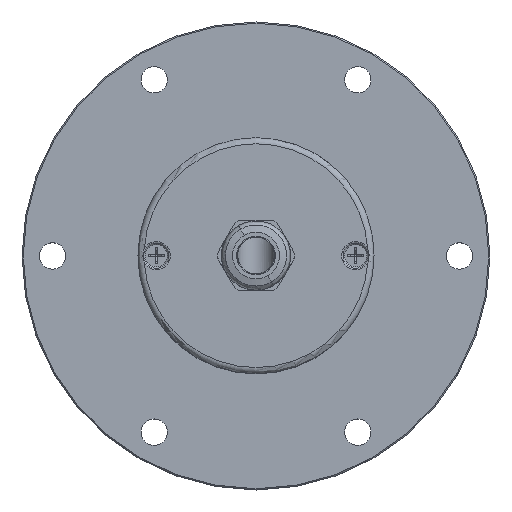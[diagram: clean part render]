
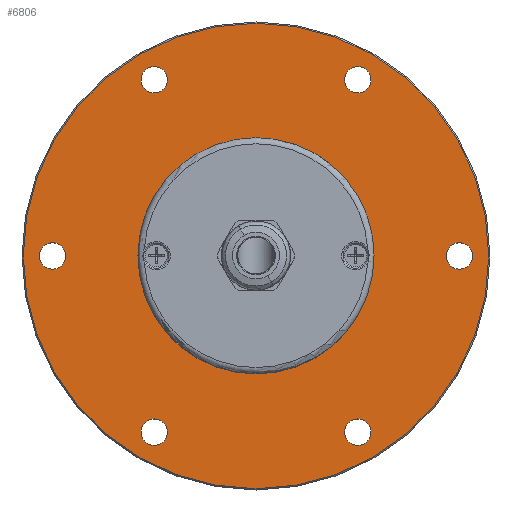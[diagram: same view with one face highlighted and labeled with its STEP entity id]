
A CAD part, top view. The second image highlights one B-rep face of the part: STEP entity #6806.
In plain terms, the highlighted planar face has unit normal (0, 0, 1).
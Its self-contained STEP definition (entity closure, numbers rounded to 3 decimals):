
#5588=CARTESIAN_POINT('',(29.,0.,11.0));
#5589=VERTEX_POINT('',#5588);
#5590=CARTESIAN_POINT('',(0.0,0.0,11.0));
#5591=DIRECTION('',(0.0,0.0,1.0));
#5592=DIRECTION('',(-1.0,0.0,0.0));
#5593=AXIS2_PLACEMENT_3D('',#5590,#5591,#5592);
#5594=CIRCLE('',#5593,29.);
#5595=EDGE_CURVE('',#5589,#5589,#5594,.T.);
#6255=CARTESIAN_POINT('',(-21.75,43.301,11.0));
#6256=VERTEX_POINT('',#6255);
#6257=CARTESIAN_POINT('',(-25.,43.301,11.));
#6258=DIRECTION('',(0.0,0.0,-1.0));
#6259=DIRECTION('',(1.0,0.0,0.0));
#6260=AXIS2_PLACEMENT_3D('',#6257,#6258,#6259);
#6261=CIRCLE('',#6260,3.25);
#6262=EDGE_CURVE('',#6256,#6256,#6261,.T.);
#6304=CARTESIAN_POINT('',(-48.375,2.815,11.0));
#6305=VERTEX_POINT('',#6304);
#6306=CARTESIAN_POINT('',(-50.0,0.,11.));
#6307=DIRECTION('',(0.0,0.0,-1.0));
#6308=DIRECTION('',(0.5,0.866,0.0));
#6309=AXIS2_PLACEMENT_3D('',#6306,#6307,#6308);
#6310=CIRCLE('',#6309,3.25);
#6311=EDGE_CURVE('',#6305,#6305,#6310,.T.);
#6353=CARTESIAN_POINT('',(-26.625,-40.487,11.0));
#6354=VERTEX_POINT('',#6353);
#6355=CARTESIAN_POINT('',(-25.,-43.301,11.));
#6356=DIRECTION('',(0.0,0.0,-1.0));
#6357=DIRECTION('',(-0.5,0.866,0.0));
#6358=AXIS2_PLACEMENT_3D('',#6355,#6356,#6357);
#6359=CIRCLE('',#6358,3.25);
#6360=EDGE_CURVE('',#6354,#6354,#6359,.T.);
#6402=CARTESIAN_POINT('',(21.75,-43.301,11.0));
#6403=VERTEX_POINT('',#6402);
#6404=CARTESIAN_POINT('',(25.,-43.301,11.));
#6405=DIRECTION('',(0.0,0.0,-1.0));
#6406=DIRECTION('',(-1.0,0.0,0.0));
#6407=AXIS2_PLACEMENT_3D('',#6404,#6405,#6406);
#6408=CIRCLE('',#6407,3.25);
#6409=EDGE_CURVE('',#6403,#6403,#6408,.T.);
#6451=CARTESIAN_POINT('',(48.375,-2.815,11.0));
#6452=VERTEX_POINT('',#6451);
#6453=CARTESIAN_POINT('',(50.0,0.,11.));
#6454=DIRECTION('',(0.0,0.0,-1.0));
#6455=DIRECTION('',(-0.5,-0.866,0.0));
#6456=AXIS2_PLACEMENT_3D('',#6453,#6454,#6455);
#6457=CIRCLE('',#6456,3.25);
#6458=EDGE_CURVE('',#6452,#6452,#6457,.T.);
#6500=CARTESIAN_POINT('',(26.625,40.487,11.0));
#6501=VERTEX_POINT('',#6500);
#6502=CARTESIAN_POINT('',(25.,43.301,11.));
#6503=DIRECTION('',(0.0,0.0,-1.));
#6504=DIRECTION('',(0.5,-0.866,0.0));
#6505=AXIS2_PLACEMENT_3D('',#6502,#6503,#6504);
#6506=CIRCLE('',#6505,3.25);
#6507=EDGE_CURVE('',#6501,#6501,#6506,.T.);
#6769=CARTESIAN_POINT('',(0.0,0.0,11.0));
#6770=DIRECTION('',(0.0,0.0,-1.0));
#6771=DIRECTION('',(-1.0,0.0,0.0));
#6772=AXIS2_PLACEMENT_3D('',#6769,#6770,#6771);
#6773=PLANE('',#6772);
#6774=CARTESIAN_POINT('',(57.2,0.,11.0));
#6775=VERTEX_POINT('',#6774);
#6776=CARTESIAN_POINT('',(0.0,0.0,11.0));
#6777=DIRECTION('',(0.0,0.0,-1.0));
#6778=DIRECTION('',(-1.0,0.0,0.0));
#6779=AXIS2_PLACEMENT_3D('',#6776,#6777,#6778);
#6780=CIRCLE('',#6779,57.2);
#6781=EDGE_CURVE('',#6775,#6775,#6780,.T.);
#6782=ORIENTED_EDGE('',*,*,#6781,.F.);
#6783=EDGE_LOOP('',(#6782));
#6784=FACE_OUTER_BOUND('',#6783,.T.);
#6785=ORIENTED_EDGE('',*,*,#5595,.F.);
#6786=EDGE_LOOP('',(#6785));
#6787=FACE_BOUND('',#6786,.T.);
#6788=ORIENTED_EDGE('',*,*,#6262,.T.);
#6789=EDGE_LOOP('',(#6788));
#6790=FACE_BOUND('',#6789,.T.);
#6791=ORIENTED_EDGE('',*,*,#6311,.T.);
#6792=EDGE_LOOP('',(#6791));
#6793=FACE_BOUND('',#6792,.T.);
#6794=ORIENTED_EDGE('',*,*,#6360,.T.);
#6795=EDGE_LOOP('',(#6794));
#6796=FACE_BOUND('',#6795,.T.);
#6797=ORIENTED_EDGE('',*,*,#6409,.T.);
#6798=EDGE_LOOP('',(#6797));
#6799=FACE_BOUND('',#6798,.T.);
#6800=ORIENTED_EDGE('',*,*,#6458,.T.);
#6801=EDGE_LOOP('',(#6800));
#6802=FACE_BOUND('',#6801,.T.);
#6803=ORIENTED_EDGE('',*,*,#6507,.T.);
#6804=EDGE_LOOP('',(#6803));
#6805=FACE_BOUND('',#6804,.T.);
#6806=ADVANCED_FACE('',(#6784,#6787,#6790,#6793,#6796,#6799,#6802,#6805),#6773,.F.);
